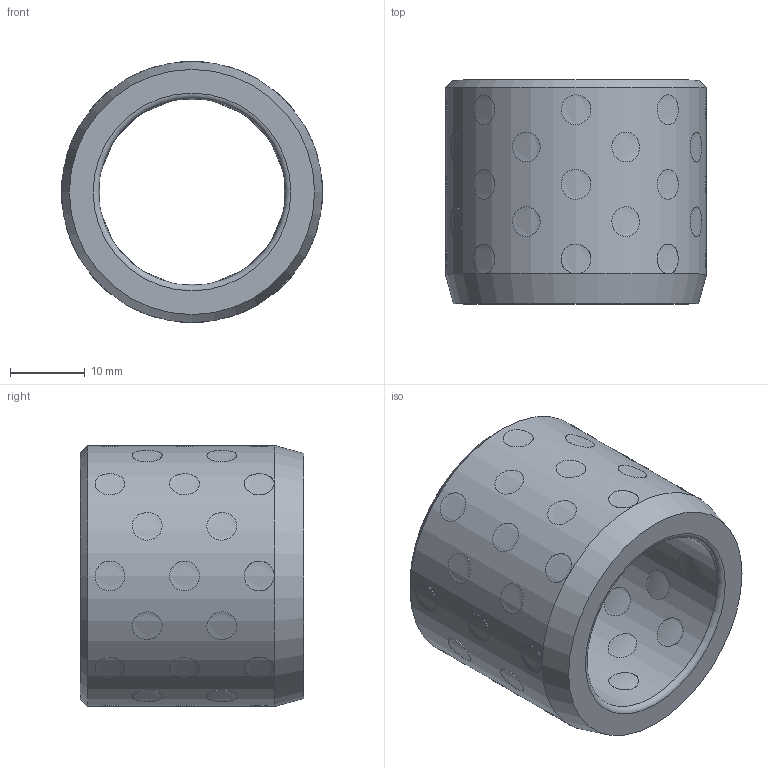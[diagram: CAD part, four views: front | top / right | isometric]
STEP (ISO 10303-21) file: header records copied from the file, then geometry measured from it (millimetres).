
FILE_DESCRIPTION( ( 'STEP AP203' ), '1' );
FILE_NAME( 'D:/Cuma/18 03 2010/D30.04/D30.04_253035.step', '2003-01-24T23:21:03', ( ' ' ), ( ' ' ), 'XStep 1.0', ' ', ' ' );
FILE_SCHEMA( ( 'CONFIG_CONTROL_DESIGN' ) );
Length unit declared in the file: metre
Products named in the file (49): 1; 2; 3; 4; 5; 6; 7; 8; 9; 10; 11; 12; 13; 14; 15; 16; 17; 18; 19; 20; 21; 22; 23; 24; 25; 26; 27; 28; 29; 30; 31; 32; 33; 34; 35; 36; 37; 38; 39; 40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
Bounding box: 35 x 30 x 35 mm (x, y, z)
Volume: 16856 mm3; surface area: 10608 mm2
Topology: 49 solids, 49 shells, 152 faces, 158 edges, 104 vertices
Faces by surface type: cylinder 146, torus 2, plane 2, cone 2
Full cylindrical faces by diameter (mm): 4 x48, 25 x1, 35 x1
Entity records: 9621 total; most frequent: CARTESIAN_POINT 5593, DIRECTION 418, CC_DESIGN_PERSON_AND_ORGANIZATION_ASSIGNMENT 245, AXIS2_PLACEMENT_3D 209, EDGE_LOOP 208, ORIENTED_EDGE 208, FACE_OUTER_BOUND 204, PERSON_AND_ORGANIZATION_ROLE 196
